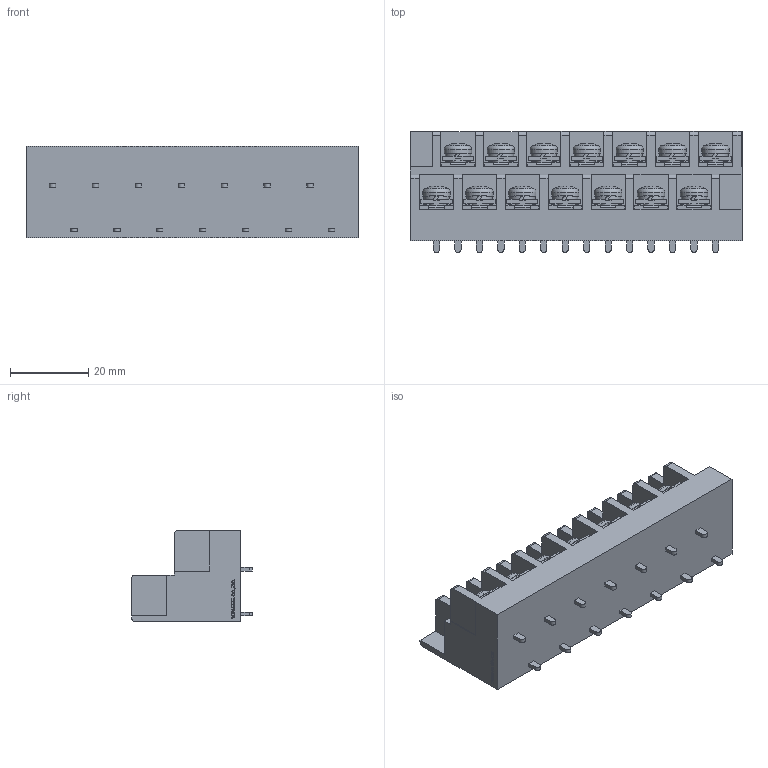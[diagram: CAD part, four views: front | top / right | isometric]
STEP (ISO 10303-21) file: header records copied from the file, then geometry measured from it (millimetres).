
FILE_DESCRIPTION(/* description */ ('Alibre Inc.'),/* implementation_level */ '2;1');
FILE_NAME(/* name */ 'export0',/* time_stamp */ '2016-08-05T11:51:11+09:00',/* author */ (''),/* organization */ (''),/* preprocessor_version */ 'ST-DEVELOPER v14',/* originating_system */ 'Alibre',/* authorisation */ '');
FILE_SCHEMA (('CONFIG_CONTROL_DESIGN'));
Length unit declared in the file: centimetre
Products named in the file (1): ID_1
Bounding box: 85.1 x 31 x 23.5 mm (x, y, z)
Volume: 35898.2 mm3; surface area: 16805.3 mm2
Topology: 1 solids, 129 shells, 3005 faces, 7852 edges, 5174 vertices
Faces by surface type: plane 2324, bspline 468, cylinder 115, cone 56, torus 28, sphere 14
Full cylindrical faces by diameter (mm): 4 x14, 7 x14
Entity records: 87641 total; most frequent: CARTESIAN_POINT 20210, ORIENTED_EDGE 15676, DIRECTION 9752, EDGE_CURVE 7782, VECTOR 5867, LINE 5867, VERTEX_POINT 5160, EDGE_LOOP 3250
